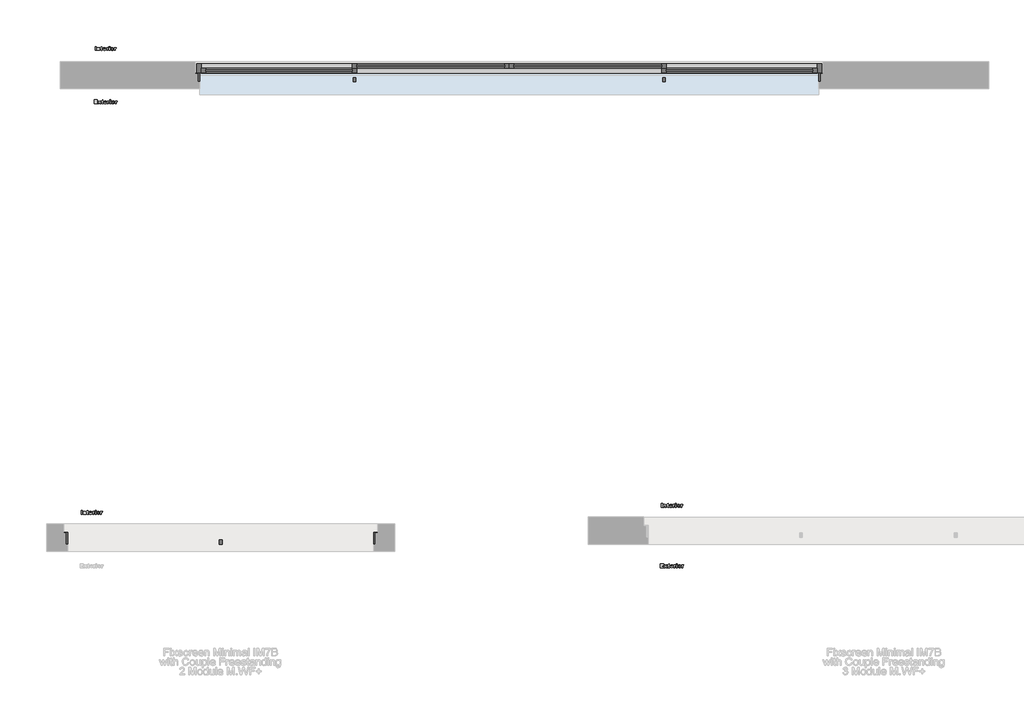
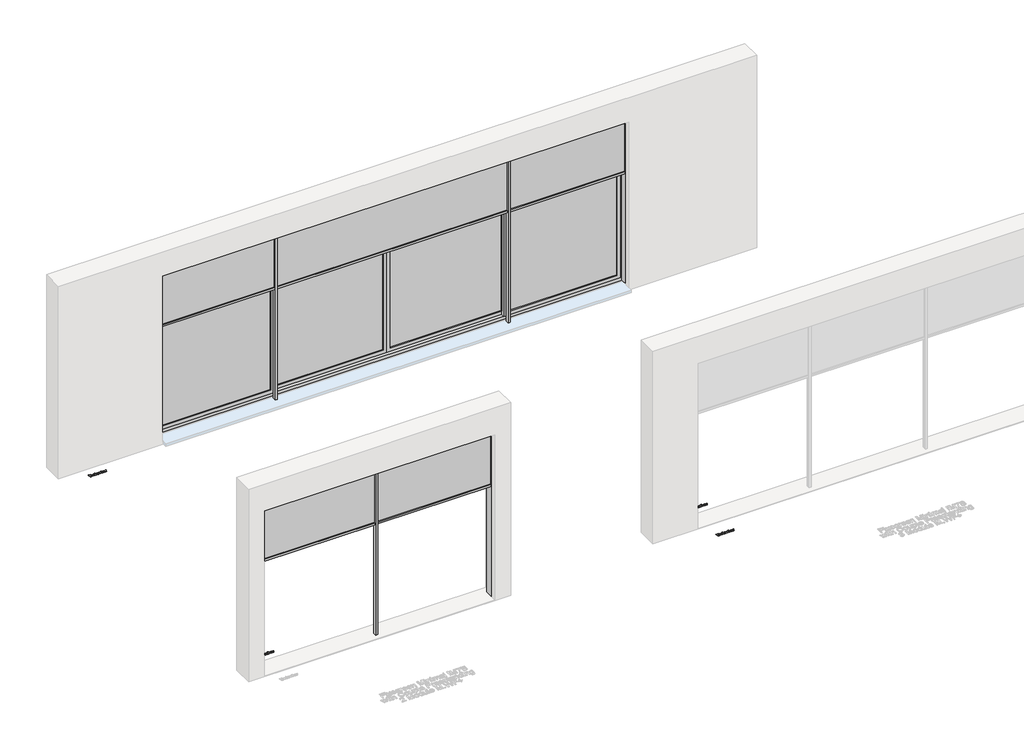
# One storey, part 11 of 14: 8 proxies.
"""IFC4 building model written with IfcOpenShell, lengths in millimetres."""

from ifc_helpers import new_model, si_unit, origin, origin_with_axes, place, context, project, spatial, polyline, outline, extrude, transform, mapped, element, save
from components import generic_models_3707517a, generic_models_cc4518e1, generic_models_e1c06c38

model = new_model("IFC4")

# Units and contexts
model_context = context("Model", 3, world=origin())
ifc_project = project(units=[si_unit("LENGTHUNIT", "METRE", prefix="MILLI")], contexts=[model_context])

# Site, building, storey
site = spatial("IfcSite", under=ifc_project)
building = spatial("IfcBuilding", under=site)
storey = spatial("IfcBuildingStorey", under=building, Name="Fixscreen Mini CF Overview Top", Elevation=0.0)

# Proxies
placement = place(None, origin())
generic_models_shape = generic_models_3707517a(model_context)
element("IfcBuildingElementProxy", 1, Name="REN_TEM_WIN_SUB_Slide4 : REN_TEM_WIN_SUB_Slide4", ObjectType="REN_TEM_WIN_SUB_Slide4 : REN_TEM_WIN_SUB_Slide4", at=placement, inside=storey, context=model_context, shape_type="MappedRepresentation", body=[
    mapped(generic_models_shape, transform((-3813.8595357, 21700.3673585, -795.0), x_axis=(1.0, 0.0, 0.0), y_axis=(0.0, 1.0, 0.0), z_axis=(0.0, 0.0, 1.0))),
])
generic_models_2_shape = generic_models_cc4518e1(model_context)
element("IfcBuildingElementProxy", 2, Name="Renson_Fixscreen_Minimal_IM7B_With_CF : Recessed - Front of the window - Medium-CF - Access downwards - Fabric away from the window", ObjectType="Renson_Fixscreen_Minimal_IM7B_With_CF : Recessed - Front of the window - Medium-CF - Access downwards - Fabric away from the window", at=placement, inside=storey, context=model_context, shape_type="MappedRepresentation", body=[
    mapped(generic_models_2_shape, transform((-6342.8595357, 15690.9520611, -790.0), x_axis=(-1.0, 0.0, 0.0), y_axis=(0.0, -1.0, 0.0), z_axis=(0.0, 0.0, 1.0))),
])
generic_models_3_shape = generic_models_e1c06c38(model_context)
element("IfcBuildingElementProxy", 3, Name="Renson_Fixscreen_Minimal_IM7B_With_CF : Recessed - Front of the window - Medium-CF - Access downwards - Fabric away from the window", ObjectType="Renson_Fixscreen_Minimal_IM7B_With_CF : Recessed - Front of the window - Medium-CF - Access downwards - Fabric away from the window", at=placement, inside=storey, context=model_context, shape_type="MappedRepresentation", body=[
    mapped(generic_models_3_shape, transform((-1688.8595357, 21670.3673585, -745.0), x_axis=(-1.0, 0.0, 0.0), y_axis=(0.0, -1.0, 0.0), z_axis=(0.0, 0.0, 1.0))),
])
element("IfcBuildingElementProxy", 4, Name="50mm Arial", ObjectType="50mm Arial", at=placement, inside=storey, context=model_context, shape_type="SweptSolid", body=[
    extrude(outline(polyline([(-9347.4735982, 16042.8661771), (-9331.7320107, 16042.8661771), (-9331.7320107, 15992.6898667), (-9347.4735982, 15992.6898667), (-9347.4735982, 16042.8661771)])), origin_with_axes(), (0.0, 0.0, 1.0), 3.0),
    extrude(outline(polyline([(-9321.8935184, 16029.092288), (-9309.0727332, 16029.092288), (-9309.0727332, 16023.3275464), (-9303.1619516, 16028.5158138), (-9295.8830046, 16030.0761372), (-9286.8054582, 16026.6172923), (-9283.5233987, 16015.9333046), (-9283.5233987, 15992.6898667), (-9297.2972878, 15992.6898667), (-9297.2972878, 16012.9202664), (-9298.6039626, 16017.8164535), (-9302.2626519, 16019.2537957), (-9306.4978153, 16017.3168426), (-9308.1196293, 16010.3530348), (-9308.1196293, 15992.6898667), (-9321.8935184, 15992.6898667), (-9321.8935184, 16029.092288)])), origin_with_axes(), (0.0, 0.0, 1.0), 3.0),
    extrude(outline(polyline([(-9258.9271681, 16042.8661771), (-9258.9271681, 16029.092288), (-9251.0563743, 16029.092288), (-9251.0563743, 16019.2537957), (-9258.9271681, 16019.2537957), (-9258.9271681, 16005.9257133), (-9258.4967341, 16002.743576), (-9256.1908375, 16001.5445097), (-9252.0402236, 16002.4668684), (-9251.0563743, 15992.8282205), (-9260.4951778, 15991.7060175), (-9267.9816555, 15993.0664965), (-9271.5481089, 15997.2017378), (-9272.7010573, 16006.2024209), (-9272.7010573, 16019.2537957), (-9277.6203034, 16019.2537957), (-9277.6203034, 16029.092288), (-9272.7010573, 16029.092288), (-9272.7010573, 16035.7332702), (-9258.9271681, 16042.8661771)])), origin_with_axes(), (0.0, 0.0, 1.0), 3.0),
    extrude(outline(polyline([(-9204.8154608, 16008.2392962), (-9232.3632391, 16007.4476051), (-9230.641503, 16003.4353449), (-9225.6146483, 16001.5445097), (-9221.8944685, 16002.4514957), (-9219.5731992, 16004.4960574), (-9205.7993101, 16003.5122082), (-9213.2166109, 15994.4500345), (-9225.6915116, 15991.7060175), (-9236.775188, 15993.7659518), (-9243.4776608, 16000.2993255), (-9246.1371282, 16010.8295868), (-9240.7797618, 16024.749516), (-9234.402036, 16028.7444819), (-9225.9835918, 16030.0761372), (-9213.8930072, 16027.6933774), (-9207.1367301, 16020.7910602), (-9204.8154608, 16008.2392962)]), holes=[polyline([(-9218.58935, 16014.3345496), (-9220.7645791, 16018.8694796), (-9225.414804, 16020.237645), (-9230.7183662, 16018.1777107), (-9232.3324938, 16014.3345496), (-9218.58935, 16014.3345496)])]), origin_with_axes(), (0.0, 0.0, 1.0), 3.0),
    extrude(outline(polyline([(-9198.9123655, 16029.092288), (-9186.0762077, 16029.092288), (-9186.0762077, 16023.2353106), (-9182.1638697, 16028.6080497), (-9177.1754467, 16030.0761372), (-9170.380738, 16028.0162029), (-9174.7311963, 16018.2238286), (-9178.6665932, 16019.2537957), (-9182.9555609, 16016.9786444), (-9185.1384764, 16004.9726094), (-9185.1384764, 15992.6898667), (-9198.9123655, 15992.6898667), (-9198.9123655, 16029.092288)])), origin_with_axes(), (0.0, 0.0, 1.0), 3.0),
    extrude(outline(polyline([(-9167.4291904, 16042.8661771), (-9153.6553012, 16042.8661771), (-9153.6553012, 16033.0276849), (-9167.4291904, 16033.0276849), (-9167.4291904, 16042.8661771)])), origin_with_axes(), (0.0, 0.0, 1.0), 3.0),
    extrude(outline(polyline([(-9167.4291904, 16029.092288), (-9153.6553012, 16029.092288), (-9153.6553012, 15992.6898667), (-9167.4291904, 15992.6898667), (-9167.4291904, 16029.092288)])), origin_with_axes(), (0.0, 0.0, 1.0), 3.0),
    extrude(outline(polyline([(-9145.7845074, 16010.7834688), (-9140.3656504, 16024.6342212), (-9133.9917678, 16028.7156582), (-9125.7078342, 16030.0761372), (-9116.4535025, 16028.4773822), (-9109.7817749, 16023.6811172), (-9105.4466893, 16010.9986859), (-9110.8194284, 15997.1171882), (-9117.2202131, 15993.0588102), (-9125.6770889, 15991.7060175), (-9139.3741149, 15996.1948296), (-9144.1819093, 16002.624438), (-9145.7845074, 16010.7834688)]), holes=[polyline([(-9132.0106183, 16010.90645), (-9130.18896, 16003.8350337), (-9125.6002257, 16001.5445097), (-9121.0114915, 16003.8042884), (-9119.2205784, 16011.0448038), (-9121.0268641, 16017.9624936), (-9125.5079899, 16020.237645), (-9130.1735874, 16017.9317483), (-9132.0106183, 16010.90645)])]), origin_with_axes(), (0.0, 0.0, 1.0), 3.0),
    extrude(outline(polyline([(-9098.5597447, 16029.092288), (-9085.7235869, 16029.092288), (-9085.7235869, 16023.2353106), (-9081.811249, 16028.6080497), (-9076.822826, 16030.0761372), (-9070.0281173, 16028.0162029), (-9074.3785755, 16018.2238286), (-9078.3139724, 16019.2537957), (-9082.6029401, 16016.9786444), (-9084.7858556, 16004.9726094), (-9084.7858556, 15992.6898667), (-9098.5597447, 15992.6898667), (-9098.5597447, 16029.092288)])), origin_with_axes(), (0.0, 0.0, 1.0), 3.0),
])
element("IfcBuildingElementProxy", 5, Name="50mm Arial", ObjectType="50mm Arial", at=placement, inside=storey, context=model_context, shape_type="SweptSolid", body=[
    extrude(outline(polyline([(-1859.7717135, 15352.5738258), (-1818.4500461, 15352.5738258), (-1818.4500461, 15340.7676351), (-1844.0301259, 15340.7676351), (-1844.0301259, 15335.848389), (-1820.4177446, 15335.848389), (-1820.4177446, 15324.0421983), (-1844.0301259, 15324.0421983), (-1844.0301259, 15314.2037061), (-1817.4661969, 15314.2037061), (-1817.4661969, 15302.3975154), (-1859.7717135, 15302.3975154), (-1859.7717135, 15352.5738258)])), origin_with_axes(), (0.0, 0.0, 1.0), 3.0),
    extrude(outline(polyline([(-1813.5308, 15338.7999367), (-1796.8053632, 15338.7999367), (-1791.3941925, 15328.6539915), (-1783.0314741, 15338.7999367), (-1769.257585, 15338.7999367), (-1781.6786814, 15321.4595941), (-1768.2737357, 15302.3975154), (-1784.0153233, 15302.3975154), (-1791.3941925, 15314.1268429), (-1800.7407601, 15302.3975154), (-1814.5146492, 15302.3975154), (-1801.1097036, 15321.4595941), (-1813.5308, 15338.7999367)])), origin_with_axes(), (0.0, 0.0, 1.0), 3.0),
    extrude(outline(polyline([(-1747.6129021, 15352.5738258), (-1747.6129021, 15338.7999367), (-1739.7421083, 15338.7999367), (-1739.7421083, 15328.9614444), (-1747.6129021, 15328.9614444), (-1747.6129021, 15315.633362), (-1747.182468, 15312.4512246), (-1744.8765714, 15311.2521584), (-1740.7259575, 15312.174517), (-1739.7421083, 15302.5358692), (-1749.1809118, 15301.4136662), (-1756.6673894, 15302.7741452), (-1760.2338429, 15306.9093864), (-1761.3867912, 15315.9100696), (-1761.3867912, 15328.9614444), (-1766.3060373, 15328.9614444), (-1766.3060373, 15338.7999367), (-1761.3867912, 15338.7999367), (-1761.3867912, 15345.4409189), (-1747.6129021, 15352.5738258)])), origin_with_axes(), (0.0, 0.0, 1.0), 3.0),
    extrude(outline(polyline([(-1693.5011948, 15317.9469449), (-1721.048973, 15317.1552537), (-1719.3272369, 15313.1429936), (-1714.3003823, 15311.2521584), (-1710.5802024, 15312.1591444), (-1708.2589331, 15314.2037061), (-1694.485044, 15313.2198568), (-1701.9023448, 15304.1576831), (-1714.3772455, 15301.4136662), (-1725.4609219, 15303.4736005), (-1732.1633947, 15310.0069742), (-1734.8228622, 15320.5372354), (-1729.4654957, 15334.4571647), (-1723.08777, 15338.4521306), (-1714.6693257, 15339.7837859), (-1702.5787411, 15337.401026), (-1695.822464, 15330.4987088), (-1693.5011948, 15317.9469449)]), holes=[polyline([(-1707.2750839, 15324.0421983), (-1709.450313, 15328.5771283), (-1714.1005379, 15329.9452936), (-1719.4041001, 15327.8853593), (-1721.0182277, 15324.0421983), (-1707.2750839, 15324.0421983)])]), origin_with_axes(), (0.0, 0.0, 1.0), 3.0),
    extrude(outline(polyline([(-1687.5980994, 15338.7999367), (-1674.7619416, 15338.7999367), (-1674.7619416, 15332.9429592), (-1670.8496037, 15338.3156984), (-1665.8611807, 15339.7837859), (-1659.066472, 15337.7238516), (-1663.4169302, 15327.9314773), (-1667.3523271, 15328.9614444), (-1671.6412948, 15326.6862931), (-1673.8242103, 15314.680258), (-1673.8242103, 15302.3975154), (-1687.5980994, 15302.3975154), (-1687.5980994, 15338.7999367)])), origin_with_axes(), (0.0, 0.0, 1.0), 3.0),
    extrude(outline(polyline([(-1656.1149243, 15352.5738258), (-1642.3410352, 15352.5738258), (-1642.3410352, 15342.7353335), (-1656.1149243, 15342.7353335), (-1656.1149243, 15352.5738258)])), origin_with_axes(), (0.0, 0.0, 1.0), 3.0),
    extrude(outline(polyline([(-1656.1149243, 15338.7999367), (-1642.3410352, 15338.7999367), (-1642.3410352, 15302.3975154), (-1656.1149243, 15302.3975154), (-1656.1149243, 15338.7999367)])), origin_with_axes(), (0.0, 0.0, 1.0), 3.0),
    extrude(outline(polyline([(-1634.4702414, 15320.4911175), (-1629.0513843, 15334.3418699), (-1622.6775018, 15338.4233069), (-1614.3935682, 15339.7837859), (-1605.1392364, 15338.1850309), (-1598.4675089, 15333.3887659), (-1594.1324232, 15320.7063345), (-1599.5051623, 15306.8248369), (-1605.905947, 15302.7664589), (-1614.3628229, 15301.4136662), (-1628.0598488, 15305.9024782), (-1632.8676432, 15312.3320867), (-1634.4702414, 15320.4911175)]), holes=[polyline([(-1620.6963523, 15320.6140987), (-1618.8746939, 15313.5426824), (-1614.2859597, 15311.2521584), (-1609.6972254, 15313.5119371), (-1607.9063124, 15320.7524525), (-1609.712598, 15327.6701423), (-1614.1937238, 15329.9452936), (-1618.8593213, 15327.639397), (-1620.6963523, 15320.6140987)])]), origin_with_axes(), (0.0, 0.0, 1.0), 3.0),
    extrude(outline(polyline([(-1587.2454787, 15338.7999367), (-1574.4093208, 15338.7999367), (-1574.4093208, 15332.9429592), (-1570.4969829, 15338.3156984), (-1565.5085599, 15339.7837859), (-1558.7138512, 15337.7238516), (-1563.0643095, 15327.9314773), (-1566.9997064, 15328.9614444), (-1571.2886741, 15326.6862931), (-1573.4715895, 15314.680258), (-1573.4715895, 15302.3975154), (-1587.2454787, 15302.3975154), (-1587.2454787, 15338.7999367)])), origin_with_axes(), (0.0, 0.0, 1.0), 3.0),
])
element("IfcBuildingElementProxy", 6, Name="50mm Arial", ObjectType="50mm Arial", at=placement, inside=storey, context=model_context, shape_type="SweptSolid", body=[
    extrude(outline(polyline([(-1847.4735982, 16132.5738258), (-1831.7320107, 16132.5738258), (-1831.7320107, 16082.3975154), (-1847.4735982, 16082.3975154), (-1847.4735982, 16132.5738258)])), origin_with_axes(), (0.0, 0.0, 1.0), 3.0),
    extrude(outline(polyline([(-1821.8935184, 16118.7999367), (-1809.0727332, 16118.7999367), (-1809.0727332, 16113.0351951), (-1803.1619516, 16118.2234625), (-1795.8830046, 16119.7837859), (-1786.8054582, 16116.324941), (-1783.5233987, 16105.6409533), (-1783.5233987, 16082.3975154), (-1797.2972878, 16082.3975154), (-1797.2972878, 16102.627915), (-1798.6039626, 16107.5241022), (-1802.2626519, 16108.9614444), (-1806.4978153, 16107.0244913), (-1808.1196293, 16100.0606835), (-1808.1196293, 16082.3975154), (-1821.8935184, 16082.3975154), (-1821.8935184, 16118.7999367)])), origin_with_axes(), (0.0, 0.0, 1.0), 3.0),
    extrude(outline(polyline([(-1758.9271681, 16132.5738258), (-1758.9271681, 16118.7999367), (-1751.0563743, 16118.7999367), (-1751.0563743, 16108.9614444), (-1758.9271681, 16108.9614444), (-1758.9271681, 16095.633362), (-1758.4967341, 16092.4512246), (-1756.1908375, 16091.2521584), (-1752.0402236, 16092.174517), (-1751.0563743, 16082.5358692), (-1760.4951778, 16081.4136662), (-1767.9816555, 16082.7741452), (-1771.5481089, 16086.9093864), (-1772.7010573, 16095.9100696), (-1772.7010573, 16108.9614444), (-1777.6203034, 16108.9614444), (-1777.6203034, 16118.7999367), (-1772.7010573, 16118.7999367), (-1772.7010573, 16125.4409189), (-1758.9271681, 16132.5738258)])), origin_with_axes(), (0.0, 0.0, 1.0), 3.0),
    extrude(outline(polyline([(-1704.8154608, 16097.9469449), (-1732.3632391, 16097.1552537), (-1730.641503, 16093.1429936), (-1725.6146483, 16091.2521584), (-1721.8944685, 16092.1591444), (-1719.5731992, 16094.2037061), (-1705.7993101, 16093.2198568), (-1713.2166109, 16084.1576831), (-1725.6915116, 16081.4136662), (-1736.775188, 16083.4736005), (-1743.4776608, 16090.0069742), (-1746.1371282, 16100.5372354), (-1740.7797618, 16114.4571647), (-1734.402036, 16118.4521306), (-1725.9835918, 16119.7837859), (-1713.8930072, 16117.401026), (-1707.1367301, 16110.4987088), (-1704.8154608, 16097.9469449)]), holes=[polyline([(-1718.58935, 16104.0421983), (-1720.7645791, 16108.5771283), (-1725.414804, 16109.9452936), (-1730.7183662, 16107.8853593), (-1732.3324938, 16104.0421983), (-1718.58935, 16104.0421983)])]), origin_with_axes(), (0.0, 0.0, 1.0), 3.0),
    extrude(outline(polyline([(-1698.9123655, 16118.7999367), (-1686.0762077, 16118.7999367), (-1686.0762077, 16112.9429592), (-1682.1638697, 16118.3156984), (-1677.1754467, 16119.7837859), (-1670.380738, 16117.7238516), (-1674.7311963, 16107.9314773), (-1678.6665932, 16108.9614444), (-1682.9555609, 16106.6862931), (-1685.1384764, 16094.680258), (-1685.1384764, 16082.3975154), (-1698.9123655, 16082.3975154), (-1698.9123655, 16118.7999367)])), origin_with_axes(), (0.0, 0.0, 1.0), 3.0),
    extrude(outline(polyline([(-1667.4291904, 16132.5738258), (-1653.6553012, 16132.5738258), (-1653.6553012, 16122.7353335), (-1667.4291904, 16122.7353335), (-1667.4291904, 16132.5738258)])), origin_with_axes(), (0.0, 0.0, 1.0), 3.0),
    extrude(outline(polyline([(-1667.4291904, 16118.7999367), (-1653.6553012, 16118.7999367), (-1653.6553012, 16082.3975154), (-1667.4291904, 16082.3975154), (-1667.4291904, 16118.7999367)])), origin_with_axes(), (0.0, 0.0, 1.0), 3.0),
    extrude(outline(polyline([(-1645.7845074, 16100.4911175), (-1640.3656504, 16114.3418699), (-1633.9917678, 16118.4233069), (-1625.7078342, 16119.7837859), (-1616.4535025, 16118.1850309), (-1609.7817749, 16113.3887659), (-1605.4466893, 16100.7063345), (-1610.8194284, 16086.8248369), (-1617.2202131, 16082.7664589), (-1625.6770889, 16081.4136662), (-1639.3741149, 16085.9024782), (-1644.1819093, 16092.3320867), (-1645.7845074, 16100.4911175)]), holes=[polyline([(-1632.0106183, 16100.6140987), (-1630.18896, 16093.5426824), (-1625.6002257, 16091.2521584), (-1621.0114915, 16093.5119371), (-1619.2205784, 16100.7524525), (-1621.0268641, 16107.6701423), (-1625.5079899, 16109.9452936), (-1630.1735874, 16107.639397), (-1632.0106183, 16100.6140987)])]), origin_with_axes(), (0.0, 0.0, 1.0), 3.0),
    extrude(outline(polyline([(-1598.5597447, 16118.7999367), (-1585.7235869, 16118.7999367), (-1585.7235869, 16112.9429592), (-1581.811249, 16118.3156984), (-1576.822826, 16119.7837859), (-1570.0281173, 16117.7238516), (-1574.3785755, 16107.9314773), (-1578.3139724, 16108.9614444), (-1582.6029401, 16106.6862931), (-1584.7858556, 16094.680258), (-1584.7858556, 16082.3975154), (-1598.5597447, 16082.3975154), (-1598.5597447, 16118.7999367)])), origin_with_axes(), (0.0, 0.0, 1.0), 3.0),
])
element("IfcBuildingElementProxy", 7, Name="50mm Arial", ObjectType="50mm Arial", at=placement, inside=storey, context=model_context, shape_type="SweptSolid", body=[
    extrude(outline(polyline([(-9179.7717135, 21351.9891231), (-9138.4500461, 21351.9891231), (-9138.4500461, 21340.1829325), (-9164.0301259, 21340.1829325), (-9164.0301259, 21335.2636863), (-9140.4177446, 21335.2636863), (-9140.4177446, 21323.4574957), (-9164.0301259, 21323.4574957), (-9164.0301259, 21313.6190034), (-9137.4661969, 21313.6190034), (-9137.4661969, 21301.8128128), (-9179.7717135, 21301.8128128), (-9179.7717135, 21351.9891231)])), origin_with_axes(), (0.0, 0.0, 1.0), 3.0),
    extrude(outline(polyline([(-9133.5308, 21338.215234), (-9116.8053632, 21338.215234), (-9111.3941925, 21328.0692889), (-9103.0314741, 21338.215234), (-9089.257585, 21338.215234), (-9101.6786814, 21320.8748915), (-9088.2737357, 21301.8128128), (-9104.0153233, 21301.8128128), (-9111.3941925, 21313.5421402), (-9120.7407601, 21301.8128128), (-9134.5146492, 21301.8128128), (-9121.1097036, 21320.8748915), (-9133.5308, 21338.215234)])), origin_with_axes(), (0.0, 0.0, 1.0), 3.0),
    extrude(outline(polyline([(-9067.6129021, 21351.9891231), (-9067.6129021, 21338.215234), (-9059.7421083, 21338.215234), (-9059.7421083, 21328.3767418), (-9067.6129021, 21328.3767418), (-9067.6129021, 21315.0486593), (-9067.182468, 21311.866522), (-9064.8765714, 21310.6674558), (-9060.7259575, 21311.5898144), (-9059.7421083, 21301.9511665), (-9069.1809118, 21300.8289635), (-9076.6673894, 21302.1894425), (-9080.2338429, 21306.3246838), (-9081.3867912, 21315.3253669), (-9081.3867912, 21328.3767418), (-9086.3060373, 21328.3767418), (-9086.3060373, 21338.215234), (-9081.3867912, 21338.215234), (-9081.3867912, 21344.8562163), (-9067.6129021, 21351.9891231)])), origin_with_axes(), (0.0, 0.0, 1.0), 3.0),
    extrude(outline(polyline([(-9013.5011948, 21317.3622423), (-9041.048973, 21316.5705511), (-9039.3272369, 21312.558291), (-9034.3003823, 21310.6674558), (-9030.5802024, 21311.5744418), (-9028.2589331, 21313.6190034), (-9014.485044, 21312.6351542), (-9021.9023448, 21303.5729805), (-9034.3772455, 21300.8289635), (-9045.4609219, 21302.8888978), (-9052.1633947, 21309.4222716), (-9054.8228622, 21319.9525328), (-9049.4654957, 21333.872462), (-9043.08777, 21337.8674279), (-9034.6693257, 21339.1990832), (-9022.5787411, 21336.8163234), (-9015.822464, 21329.9140062), (-9013.5011948, 21317.3622423)]), holes=[polyline([(-9027.2750839, 21323.4574957), (-9029.450313, 21327.9924257), (-9034.1005379, 21329.360591), (-9039.4041001, 21327.3006567), (-9041.0182277, 21323.4574957), (-9027.2750839, 21323.4574957)])]), origin_with_axes(), (0.0, 0.0, 1.0), 3.0),
    extrude(outline(polyline([(-9007.5980994, 21338.215234), (-8994.7619416, 21338.215234), (-8994.7619416, 21332.3582566), (-8990.8496037, 21337.7309957), (-8985.8611807, 21339.1990832), (-8979.066472, 21337.1391489), (-8983.4169302, 21327.3467746), (-8987.3523271, 21328.3767418), (-8991.6412948, 21326.1015905), (-8993.8242103, 21314.0955554), (-8993.8242103, 21301.8128128), (-9007.5980994, 21301.8128128), (-9007.5980994, 21338.215234)])), origin_with_axes(), (0.0, 0.0, 1.0), 3.0),
    extrude(outline(polyline([(-8976.1149243, 21351.9891231), (-8962.3410352, 21351.9891231), (-8962.3410352, 21342.1506309), (-8976.1149243, 21342.1506309), (-8976.1149243, 21351.9891231)])), origin_with_axes(), (0.0, 0.0, 1.0), 3.0),
    extrude(outline(polyline([(-8976.1149243, 21338.215234), (-8962.3410352, 21338.215234), (-8962.3410352, 21301.8128128), (-8976.1149243, 21301.8128128), (-8976.1149243, 21338.215234)])), origin_with_axes(), (0.0, 0.0, 1.0), 3.0),
    extrude(outline(polyline([(-8954.4702414, 21319.9064149), (-8949.0513843, 21333.7571672), (-8942.6775018, 21337.8386042), (-8934.3935682, 21339.1990832), (-8925.1392364, 21337.6003282), (-8918.4675089, 21332.8040633), (-8914.1324232, 21320.1216319), (-8919.5051623, 21306.2401343), (-8925.905947, 21302.1817562), (-8934.3628229, 21300.8289635), (-8948.0598488, 21305.3177756), (-8952.8676432, 21311.747384), (-8954.4702414, 21319.9064149)]), holes=[polyline([(-8940.6963523, 21320.029396), (-8938.8746939, 21312.9579797), (-8934.2859597, 21310.6674558), (-8929.6972254, 21312.9272344), (-8927.9063124, 21320.1677498), (-8929.712598, 21327.0854397), (-8934.1937238, 21329.360591), (-8938.8593213, 21327.0546944), (-8940.6963523, 21320.029396)])]), origin_with_axes(), (0.0, 0.0, 1.0), 3.0),
    extrude(outline(polyline([(-8907.2454787, 21338.215234), (-8894.4093208, 21338.215234), (-8894.4093208, 21332.3582566), (-8890.4969829, 21337.7309957), (-8885.5085599, 21339.1990832), (-8878.7138512, 21337.1391489), (-8883.0643095, 21327.3467746), (-8886.9997064, 21328.3767418), (-8891.2886741, 21326.1015905), (-8893.4715895, 21314.0955554), (-8893.4715895, 21301.8128128), (-8907.2454787, 21301.8128128), (-8907.2454787, 21338.215234)])), origin_with_axes(), (0.0, 0.0, 1.0), 3.0),
])
element("IfcBuildingElementProxy", 8, Name="50mm Arial", ObjectType="50mm Arial", at=placement, inside=storey, context=model_context, shape_type="SweptSolid", body=[
    extrude(outline(polyline([(-9167.4735982, 22042.2814745), (-9151.7320107, 22042.2814745), (-9151.7320107, 21992.1051641), (-9167.4735982, 21992.1051641), (-9167.4735982, 22042.2814745)])), origin_with_axes(), (0.0, 0.0, 1.0), 3.0),
    extrude(outline(polyline([(-9141.8935184, 22028.5075853), (-9129.0727332, 22028.5075853), (-9129.0727332, 22022.7428438), (-9123.1619516, 22027.9311112), (-9115.8830046, 22029.4914346), (-9106.8054582, 22026.0325896), (-9103.5233987, 22015.348602), (-9103.5233987, 21992.1051641), (-9117.2972878, 21992.1051641), (-9117.2972878, 22012.3355637), (-9118.6039626, 22017.2317509), (-9122.2626519, 22018.6690931), (-9126.4978153, 22016.7321399), (-9128.1196293, 22009.7683322), (-9128.1196293, 21992.1051641), (-9141.8935184, 21992.1051641), (-9141.8935184, 22028.5075853)])), origin_with_axes(), (0.0, 0.0, 1.0), 3.0),
    extrude(outline(polyline([(-9078.9271681, 22042.2814745), (-9078.9271681, 22028.5075853), (-9071.0563743, 22028.5075853), (-9071.0563743, 22018.6690931), (-9078.9271681, 22018.6690931), (-9078.9271681, 22005.3410107), (-9078.4967341, 22002.1588733), (-9076.1908375, 22000.9598071), (-9072.0402236, 22001.8821657), (-9071.0563743, 21992.2435179), (-9080.4951778, 21991.1213148), (-9087.9816555, 21992.4817939), (-9091.5481089, 21996.6170351), (-9092.7010573, 22005.6177182), (-9092.7010573, 22018.6690931), (-9097.6203034, 22018.6690931), (-9097.6203034, 22028.5075853), (-9092.7010573, 22028.5075853), (-9092.7010573, 22035.1485676), (-9078.9271681, 22042.2814745)])), origin_with_axes(), (0.0, 0.0, 1.0), 3.0),
    extrude(outline(polyline([(-9024.8154608, 22007.6545936), (-9052.3632391, 22006.8629024), (-9050.641503, 22002.8506423), (-9045.6146483, 22000.9598071), (-9041.8944685, 22001.8667931), (-9039.5731992, 22003.9113548), (-9025.7993101, 22002.9275055), (-9033.2166109, 21993.8653318), (-9045.6915116, 21991.1213148), (-9056.775188, 21993.1812492), (-9063.4776608, 21999.7146229), (-9066.1371282, 22010.2448841), (-9060.7797618, 22024.1648134), (-9054.402036, 22028.1597793), (-9045.9835918, 22029.4914346), (-9033.8930072, 22027.1086747), (-9027.1367301, 22020.2063575), (-9024.8154608, 22007.6545936)]), holes=[polyline([(-9038.58935, 22013.749847), (-9040.7645791, 22018.284777), (-9045.414804, 22019.6529423), (-9050.7183662, 22017.593008), (-9052.3324938, 22013.749847), (-9038.58935, 22013.749847)])]), origin_with_axes(), (0.0, 0.0, 1.0), 3.0),
    extrude(outline(polyline([(-9018.9123655, 22028.5075853), (-9006.0762077, 22028.5075853), (-9006.0762077, 22022.6506079), (-9002.1638697, 22028.023347), (-8997.1754467, 22029.4914346), (-8990.380738, 22027.4315002), (-8994.7311963, 22017.6391259), (-8998.6665932, 22018.6690931), (-9002.9555609, 22016.3939418), (-9005.1384764, 22004.3879067), (-9005.1384764, 21992.1051641), (-9018.9123655, 21992.1051641), (-9018.9123655, 22028.5075853)])), origin_with_axes(), (0.0, 0.0, 1.0), 3.0),
    extrude(outline(polyline([(-8987.4291904, 22042.2814745), (-8973.6553012, 22042.2814745), (-8973.6553012, 22032.4429822), (-8987.4291904, 22032.4429822), (-8987.4291904, 22042.2814745)])), origin_with_axes(), (0.0, 0.0, 1.0), 3.0),
    extrude(outline(polyline([(-8987.4291904, 22028.5075853), (-8973.6553012, 22028.5075853), (-8973.6553012, 21992.1051641), (-8987.4291904, 21992.1051641), (-8987.4291904, 22028.5075853)])), origin_with_axes(), (0.0, 0.0, 1.0), 3.0),
    extrude(outline(polyline([(-8965.7845074, 22010.1987662), (-8960.3656504, 22024.0495185), (-8953.9917678, 22028.1309556), (-8945.7078342, 22029.4914346), (-8936.4535025, 22027.8926796), (-8929.7817749, 22023.0964146), (-8925.4466893, 22010.4139832), (-8930.8194284, 21996.5324856), (-8937.2202131, 21992.4741075), (-8945.6770889, 21991.1213148), (-8959.3741149, 21995.6101269), (-8964.1819093, 22002.0397353), (-8965.7845074, 22010.1987662)]), holes=[polyline([(-8952.0106183, 22010.3217473), (-8950.18896, 22003.2503311), (-8945.6002257, 22000.9598071), (-8941.0114915, 22003.2195858), (-8939.2205784, 22010.4601011), (-8941.0268641, 22017.377791), (-8945.5079899, 22019.6529423), (-8950.1735874, 22017.3470457), (-8952.0106183, 22010.3217473)])]), origin_with_axes(), (0.0, 0.0, 1.0), 3.0),
    extrude(outline(polyline([(-8918.5597447, 22028.5075853), (-8905.7235869, 22028.5075853), (-8905.7235869, 22022.6506079), (-8901.811249, 22028.023347), (-8896.822826, 22029.4914346), (-8890.0281173, 22027.4315002), (-8894.3785755, 22017.6391259), (-8898.3139724, 22018.6690931), (-8902.6029401, 22016.3939418), (-8904.7858556, 22004.3879067), (-8904.7858556, 21992.1051641), (-8918.5597447, 21992.1051641), (-8918.5597447, 22028.5075853)])), origin_with_axes(), (0.0, 0.0, 1.0), 3.0),
])

save(model, "model.ifc")
